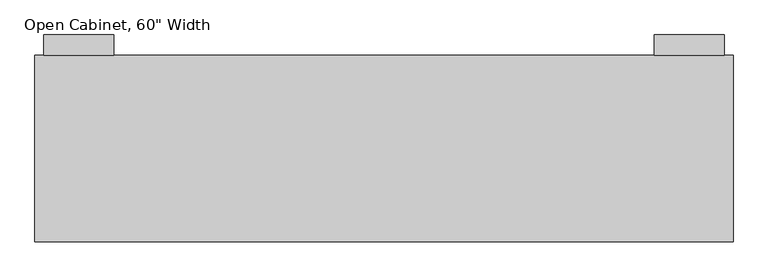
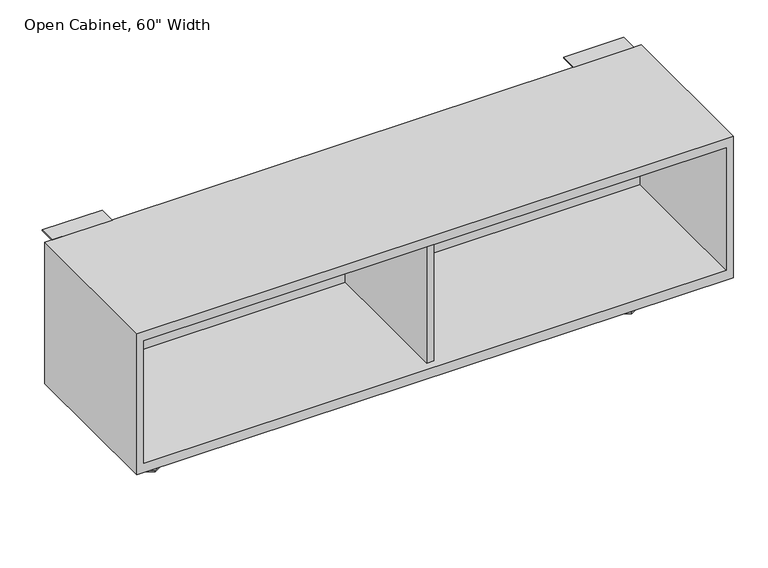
"""IFC4 building model written with IfcOpenShell, lengths in millimetres: furniture geometry."""

from ifc_helpers import new_model, si_unit, point, frame, frame_2d, origin, origin_with_axes, place, context, project, spatial, polyline, circle_curve, trimmed, segment, composite_curve, outline, extrude, faceted_brep, source, transform, mapped, element, save


def furniture_1aa36cc6(model_context):
    return source(origin(), model_context, "Body", "SolidModel", [
        extrude(outline(composite_curve([segment(trimmed(circle_curve(frame_2d((-609.6, -176.6800781)), 3.9782717), [point((-609.6, -172.7018065))], [point((-609.6, -180.6583498))], False, "CARTESIAN"), True, "CONTINUOUS"), segment(trimmed(circle_curve(frame_2d((-609.6, -176.6800781)), 3.9782717), [point((-609.6, -180.6583498))], [point((-609.6, -172.7018065))], False, "CARTESIAN"), True, "CONTINUOUS")], self_intersect=False)), frame((0.0, 0.0, 3.794115), z_axis=(0.0, 0.0, 1.0), x_axis=(1.0, 0.0, 0.0)), (0.0, 0.0, 1.0), 26.230875),
        extrude(outline(composite_curve([segment(trimmed(circle_curve(frame_2d((606.552, -176.6800781)), 3.9782717), [point((606.552, -172.7018065))], [point((606.552, -180.6583498))], False, "CARTESIAN"), True, "CONTINUOUS"), segment(trimmed(circle_curve(frame_2d((606.552, -176.6800781)), 3.9782717), [point((606.552, -180.6583498))], [point((606.552, -172.7018065))], False, "CARTESIAN"), True, "CONTINUOUS")], self_intersect=False)), frame((0.0, 0.0, 3.794115), z_axis=(0.0, 0.0, 1.0), x_axis=(1.0, 0.0, 0.0)), (0.0, 0.0, 1.0), 26.230875),
        extrude(outline(polyline([(589.0779143, -166.5914101), (606.552, -156.502742), (624.0260857, -166.5914101), (624.0260857, -186.7687462), (606.552, -196.8574143), (589.0779143, -186.7687462), (589.0779143, -166.5914101)])), origin_with_axes(), (0.0, 0.0, 1.0), 3.794115),
        extrude(outline(polyline([(-627.0740857, -166.5914101), (-609.6, -156.502742), (-592.1259143, -166.5914101), (-592.1259143, -186.7687462), (-609.6, -196.8574143), (-627.0740857, -186.7687462), (-627.0740857, -166.5914101)])), origin_with_axes(), (0.0, 0.0, 1.0), 3.794115),
        extrude(outline(polyline([(596.5444, -157.6300781), (616.5596, -157.6300781), (616.5596, -195.7300781), (596.5444, -195.7300781), (596.5444, -157.6300781)])), frame((0.0, 0.0, 30.02499), z_axis=(0.0, 0.0, 1.0), x_axis=(1.0, 0.0, 0.0)), (0.0, 0.0, 1.0), 125.55001),
        extrude(outline(polyline([(-619.6, -157.6300781), (-599.6, -157.6300781), (-599.6, -195.7300781), (-619.6, -195.7300781), (-619.6, -157.6300781)])), frame((0.0, 0.0, 30.02499), z_axis=(0.0, 0.0, 1.0), x_axis=(1.0, 0.0, 0.0)), (0.0, 0.0, 1.0), 125.55001),
        extrude(outline(polyline([(26.5199219, 508.77499), (26.5199219, 536.575), (70.8140505, 536.575), (70.8140505, 533.80049), (29.2199219, 533.80049), (29.2199219, 508.77499), (26.5199219, 508.77499)])), frame((587.476, 0.0, 0.0), z_axis=(1.0, 0.0, 0.0), x_axis=(0.0, 1.0, 0.0)), (0.0, 0.0, 1.0), 152.4),
        extrude(outline(polyline([(26.5199219, 536.575), (70.8140505, 536.575), (70.8140505, 533.80049), (29.2199219, 533.80049), (29.2199219, 508.77499), (26.5199219, 508.77499), (26.5199219, 536.575)])), frame((-742.9, 0.0, 0.0), z_axis=(1.0, 0.0, 0.0), x_axis=(0.0, 1.0, 0.0)), (0.0, 0.0, 1.0), 152.4),
        extrude(outline(polyline([(7.366, 1.1199219), (7.366, -359.0520781), (-10.414, -359.0520781), (-10.414, 1.1199219), (7.366, 1.1199219)])), frame((0.0, 0.0, 180.975), z_axis=(0.0, 0.0, 1.0), x_axis=(1.0, 0.0, 0.0)), (0.0, 0.0, 1.0), 330.2),
        faceted_brep([(758.952, -379.8800781, 536.575), (758.952, 26.5199219, 536.575), (-762.0, 26.5199219, 536.575), (-762.0, -379.8800781, 536.575), (758.952, 26.5199219, 155.575), (758.952, -379.8800781, 155.575), (-762.0, -379.8800781, 155.575), (-762.0, 26.5199219, 155.575), (741.172, -379.8800781, 180.975), (741.172, -379.8800781, 511.175), (741.172, 1.1199219, 511.175), (741.172, 1.1199219, 180.975), (-744.22, -379.8800781, 180.975), (-744.22, -379.8800781, 511.175), (-744.22, 1.1199219, 180.975), (-744.22, 1.1199219, 511.175)], [[[0, 1, 2, 3]], [[4, 5, 6, 7]], [[8, 9, 10, 11]], [[0, 3, 6, 5], [8, 12, 13, 9]], [[1, 0, 5, 4]], [[2, 1, 4, 7]], [[6, 3, 2, 7]], [[13, 12, 14, 15]], [[12, 8, 11, 14]], [[14, 11, 10, 15]], [[9, 13, 15, 10]]]),
    ])


if __name__ == "__main__":
    model = new_model("IFC4")
    model_context = context("Model", 3, world=origin())
    ifc_project = project(units=[si_unit("LENGTHUNIT", "METRE", prefix="MILLI")], contexts=[model_context])
    site = spatial("IfcSite", under=ifc_project)
    building = spatial("IfcBuilding", under=site)
    placement = place(None, origin())
    furniture_shape = furniture_1aa36cc6(model_context)
    element("IfcFurniture", 1, ObjectType="Furniture-Cabinet-Teknion-Altos_Landscape-R2015 : Open Cabinet, 60\" Width", at=placement, inside=building, context=model_context, shape_type="MappedRepresentation", body=[
        mapped(furniture_shape, transform((0.0, 0.0, 0.0), x_axis=(1.0, 0.0, 0.0), y_axis=(0.0, 1.0, 0.0), z_axis=(0.0, 0.0, 1.0))),
    ])
    save(model, "model.ifc")
